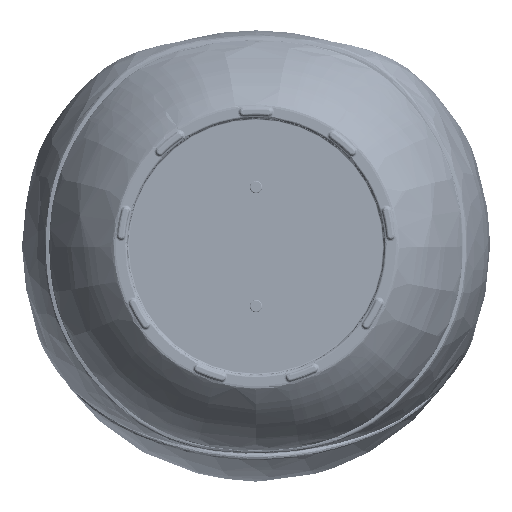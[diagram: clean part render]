
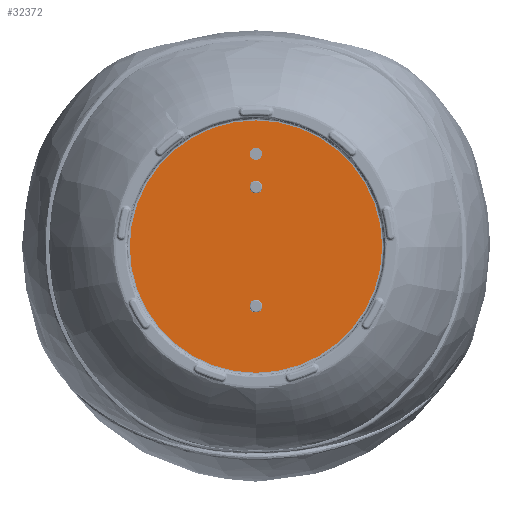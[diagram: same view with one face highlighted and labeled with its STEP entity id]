
A CAD part, front view. The second image highlights one B-rep face of the part: STEP entity #32372.
In plain terms, the highlighted planar face has unit normal (0, -1, 0).
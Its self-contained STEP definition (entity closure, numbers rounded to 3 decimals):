
#95 = EDGE_LOOP ( 'NONE', ( #295108, #153492 ) ) ;
#1567 = DIRECTION ( 'NONE',  ( 0., 0., -1. ) ) ;
#3755 = CIRCLE ( 'NONE', #9647, 12.5 ) ;
#7384 = VERTEX_POINT ( 'NONE', #277187 ) ;
#9647 = AXIS2_PLACEMENT_3D ( 'NONE', #94405, #98047, #320326 ) ;
#23647 = DIRECTION ( 'NONE',  ( 0., 0., -1. ) ) ;
#25846 = AXIS2_PLACEMENT_3D ( 'NONE', #57145, #114957, #23647 ) ;
#32184 = CARTESIAN_POINT ( 'NONE',  ( 0., -21., 187.5 ) ) ;
#32372 = ADVANCED_FACE ( 'NONE', ( #288348, #123932, #118395, #176266 ), #73467, .T. ) ;
#34306 = EDGE_CURVE ( 'NONE', #114179, #63003, #332043, .T. ) ;
#57145 = CARTESIAN_POINT ( 'NONE',  ( 0., -21., 120.256 ) ) ;
#63003 = VERTEX_POINT ( 'NONE', #308897 ) ;
#65136 = EDGE_CURVE ( 'NONE', #63003, #114179, #134724, .T. ) ;
#69370 = CARTESIAN_POINT ( 'NONE',  ( 0., -21., 133.256 ) ) ;
#69798 = DIRECTION ( 'NONE',  ( 0., -1., 0. ) ) ;
#73467 = PLANE ( 'NONE',  #260010 ) ;
#75400 = DIRECTION ( 'NONE',  ( 0., 0., -1. ) ) ;
#93755 = EDGE_LOOP ( 'NONE', ( #284565, #216478 ) ) ;
#94405 = CARTESIAN_POINT ( 'NONE',  ( 0., -21., 187.5 ) ) ;
#97467 = EDGE_CURVE ( 'NONE', #305147, #337586, #276661, .T. ) ;
#97972 = CARTESIAN_POINT ( 'NONE',  ( 0., -21., 107.256 ) ) ;
#98047 = DIRECTION ( 'NONE',  ( 0., -1., 0. ) ) ;
#102148 = CARTESIAN_POINT ( 'NONE',  ( 0., -21., 0. ) ) ;
#105209 = CARTESIAN_POINT ( 'NONE',  ( 0., -21., 120.256 ) ) ;
#114179 = VERTEX_POINT ( 'NONE', #276194 ) ;
#114957 = DIRECTION ( 'NONE',  ( 0., -1., 0. ) ) ;
#118395 = FACE_BOUND ( 'NONE', #93755, .T. ) ;
#122740 = AXIS2_PLACEMENT_3D ( 'NONE', #147088, #345107, #1567 ) ;
#123932 = FACE_BOUND ( 'NONE', #146223, .T. ) ;
#128321 = DIRECTION ( 'NONE',  ( 0., -1., 0. ) ) ;
#128591 = AXIS2_PLACEMENT_3D ( 'NONE', #244995, #321702, #157253 ) ;
#132811 = CIRCLE ( 'NONE', #365294, 12.5 ) ;
#134724 = CIRCLE ( 'NONE', #122740, 13. ) ;
#136955 = VERTEX_POINT ( 'NONE', #314989 ) ;
#146223 = EDGE_LOOP ( 'NONE', ( #229029, #268799 ) ) ;
#147088 = CARTESIAN_POINT ( 'NONE',  ( 0., -21., -120.256 ) ) ;
#149025 = ORIENTED_EDGE ( 'NONE', *, *, #289567, .F. ) ;
#153492 = ORIENTED_EDGE ( 'NONE', *, *, #322101, .T. ) ;
#157253 = DIRECTION ( 'NONE',  ( 1., 0., 0. ) ) ;
#176266 = FACE_OUTER_BOUND ( 'NONE', #95, .T. ) ;
#182428 = CIRCLE ( 'NONE', #128591, 255. ) ;
#183089 = CARTESIAN_POINT ( 'NONE',  ( 0., -21., 175. ) ) ;
#189816 = CARTESIAN_POINT ( 'NONE',  ( 255., -21., 0. ) ) ;
#192863 = EDGE_CURVE ( 'NONE', #337586, #305147, #222527, .T. ) ;
#205768 = DIRECTION ( 'NONE',  ( 0., 0., -1. ) ) ;
#216478 = ORIENTED_EDGE ( 'NONE', *, *, #192863, .F. ) ;
#219105 = DIRECTION ( 'NONE',  ( 0., -1., 0. ) ) ;
#220724 = CIRCLE ( 'NONE', #346262, 255. ) ;
#222527 = CIRCLE ( 'NONE', #25846, 13. ) ;
#223295 = AXIS2_PLACEMENT_3D ( 'NONE', #105209, #219105, #75400 ) ;
#229029 = ORIENTED_EDGE ( 'NONE', *, *, #34306, .F. ) ;
#233794 = DIRECTION ( 'NONE',  ( 0., -1., 0. ) ) ;
#244093 = DIRECTION ( 'NONE',  ( 1., 0., 0. ) ) ;
#244995 = CARTESIAN_POINT ( 'NONE',  ( 0., -21., 0. ) ) ;
#252076 = DIRECTION ( 'NONE',  ( 1., 0., 0. ) ) ;
#260010 = AXIS2_PLACEMENT_3D ( 'NONE', #357312, #69798, #252076 ) ;
#268477 = EDGE_CURVE ( 'NONE', #320808, #136955, #220724, .T. ) ;
#268799 = ORIENTED_EDGE ( 'NONE', *, *, #65136, .F. ) ;
#270243 = DIRECTION ( 'NONE',  ( 0., -1., 0. ) ) ;
#276194 = CARTESIAN_POINT ( 'NONE',  ( 0., -21., -133.256 ) ) ;
#276661 = CIRCLE ( 'NONE', #223295, 13. ) ;
#277187 = CARTESIAN_POINT ( 'NONE',  ( 0., -21., 200. ) ) ;
#284565 = ORIENTED_EDGE ( 'NONE', *, *, #97467, .F. ) ;
#286036 = ORIENTED_EDGE ( 'NONE', *, *, #339348, .F. ) ;
#288348 = FACE_BOUND ( 'NONE', #351507, .T. ) ;
#289567 = EDGE_CURVE ( 'NONE', #7384, #350062, #3755, .T. ) ;
#295108 = ORIENTED_EDGE ( 'NONE', *, *, #268477, .T. ) ;
#298328 = CARTESIAN_POINT ( 'NONE',  ( 0., -21., -120.256 ) ) ;
#305147 = VERTEX_POINT ( 'NONE', #97972 ) ;
#308897 = CARTESIAN_POINT ( 'NONE',  ( 0., -21., -107.256 ) ) ;
#314989 = CARTESIAN_POINT ( 'NONE',  ( -255., -21., 0. ) ) ;
#320326 = DIRECTION ( 'NONE',  ( 0., 0., -1. ) ) ;
#320808 = VERTEX_POINT ( 'NONE', #189816 ) ;
#321702 = DIRECTION ( 'NONE',  ( 0., -1., 0. ) ) ;
#322101 = EDGE_CURVE ( 'NONE', #136955, #320808, #182428, .T. ) ;
#332043 = CIRCLE ( 'NONE', #361907, 13. ) ;
#337586 = VERTEX_POINT ( 'NONE', #69370 ) ;
#339348 = EDGE_CURVE ( 'NONE', #350062, #7384, #132811, .T. ) ;
#345107 = DIRECTION ( 'NONE',  ( 0., -1., 0. ) ) ;
#346262 = AXIS2_PLACEMENT_3D ( 'NONE', #102148, #270243, #244093 ) ;
#350062 = VERTEX_POINT ( 'NONE', #183089 ) ;
#351507 = EDGE_LOOP ( 'NONE', ( #286036, #149025 ) ) ;
#357312 = CARTESIAN_POINT ( 'NONE',  ( 0., -21., 0. ) ) ;
#359849 = DIRECTION ( 'NONE',  ( 0., 0., -1. ) ) ;
#361907 = AXIS2_PLACEMENT_3D ( 'NONE', #298328, #128321, #359849 ) ;
#365294 = AXIS2_PLACEMENT_3D ( 'NONE', #32184, #233794, #205768 ) ;
